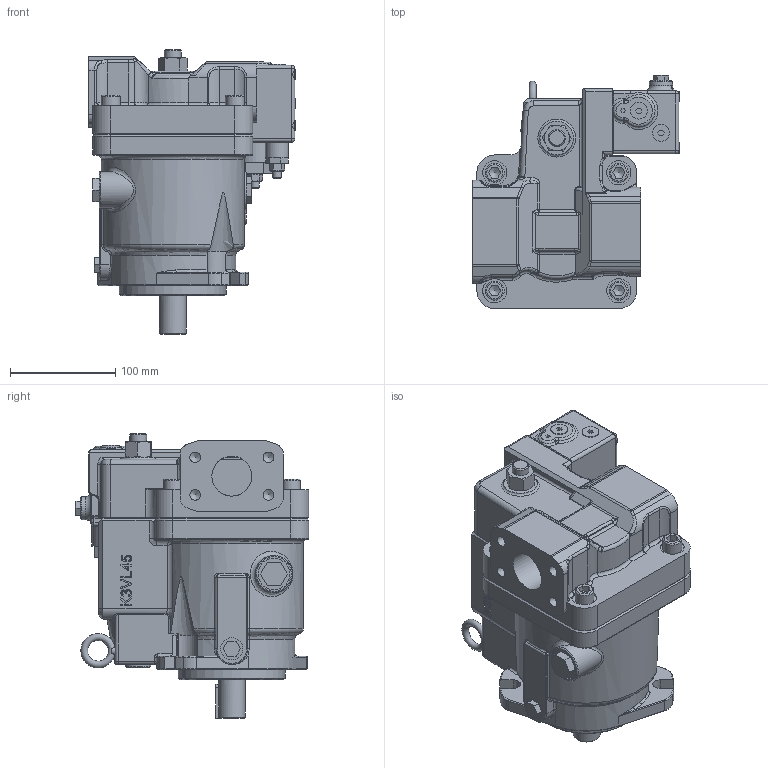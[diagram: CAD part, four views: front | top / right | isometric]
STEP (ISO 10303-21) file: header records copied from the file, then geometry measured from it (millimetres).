
FILE_DESCRIPTION((''),'2;1');
FILE_NAME('I:\3D Step files\Approved for WEB\K3V\K3VL45B 10RKM L0.stp','2013-03-05T08:51:11',('MNORMAN'),(''),'Autodesk Inventor 2013','Autodesk Inventor 2013','');
FILE_SCHEMA(('AUTOMOTIVE_DESIGN { 1 0 10303 214 1 1 1 1 }'));
Length unit declared in the file: millimetre
Products named in the file (1): Part1
Bounding box: 196.5 x 221.7 x 270.2 mm (x, y, z)
Volume: 4840593.5 mm3; surface area: 297762.4 mm2
Topology: 15 solids, 15 shells, 1030 faces, 2475 edges, 1504 vertices
Faces by surface type: plane 432, cylinder 272, bspline 149, cone 88, torus 67, sphere 22
Full cylindrical faces by diameter (mm): 4.917 x4, 6 x4, 6.5 x4, 6.647 x1, 8 x5, 8.376 x5, 10 x4, 10.106 x8, 11 x4, 12 x4, 13.835 x1, 15.5 x4, 16 x3, 18 x4, 21 x1, 22 x2, 22.177 x1, 23 x4, 24 x1, 25 x1, 25.4 x1, 30 x3, 32 x1, 36 x1, 38 x1, 90 x1, 101.6 x1, 105 x1
Entity records: 34343 total; most frequent: CARTESIAN_POINT 11093, ORIENTED_EDGE 4554, DIRECTION 4375, EDGE_CURVE 2277, AXIS2_PLACEMENT_3D 1660, VERTEX_POINT 1460, EDGE_LOOP 1227, VECTOR 1055
